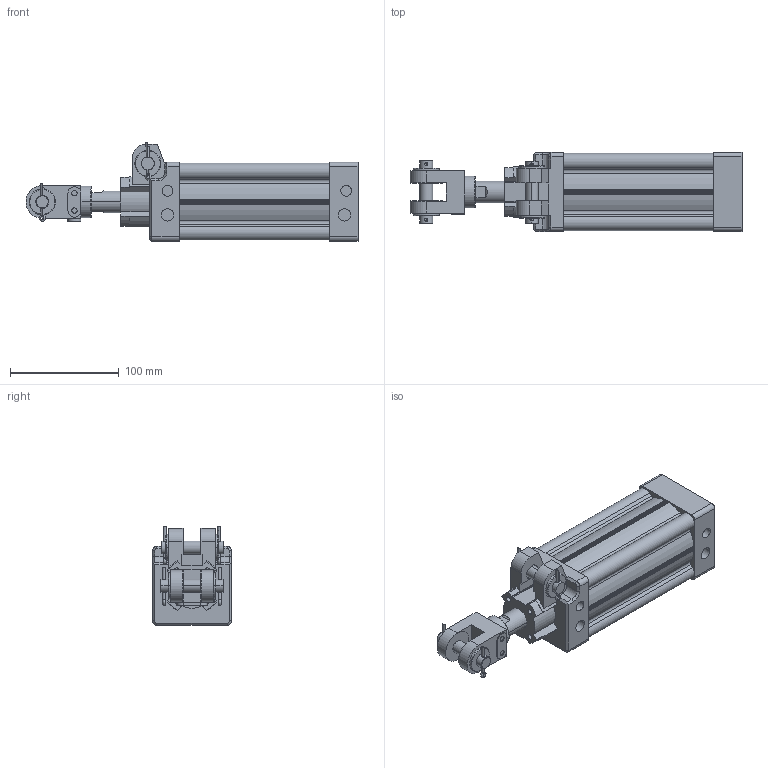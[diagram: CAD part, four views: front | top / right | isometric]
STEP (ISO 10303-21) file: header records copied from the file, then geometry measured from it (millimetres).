
FILE_DESCRIPTION(('CATIA V5 STEP Exchange'),'2;1');
FILE_NAME('D:\stp file for catalog\PNCCA\pncca 63\pncca 63-20-100.stp','2015-05-04T07:53:11+00:00',('none'),('none'),'Version 5-6 Release 2012','CATIA V5 STEP AP203','none');
FILE_SCHEMA(('CONFIG_CONTROL_DESIGN'));
Length unit declared in the file: millimetre
Products named in the file (3): pncca 63-20-100; Product2; Product4
Assembly tree (9 placements, depth 3):
  pncca 63-20-100
    Product2
      #66
      #2687
      #3209
    Product4
      #3752
      #15236
      #15562
      #16084
Bounding box: 305 x 72.5 x 90.64 mm (x, y, z)
Volume: 673935.4 mm3; surface area: 181956 mm2
Topology: 9 solids, 13 shells, 569 faces, 1411 edges, 932 vertices
Faces by surface type: cylinder 265, plane 264, cone 20, torus 12, bspline 8
Entity records: 16582 total; most frequent: CARTESIAN_POINT 3711, ORIENTED_EDGE 2782, DIRECTION 2145, EDGE_CURVE 1391, AXIS2_PLACEMENT_3D 966, VERTEX_POINT 908, VECTOR 789, LINE 789
